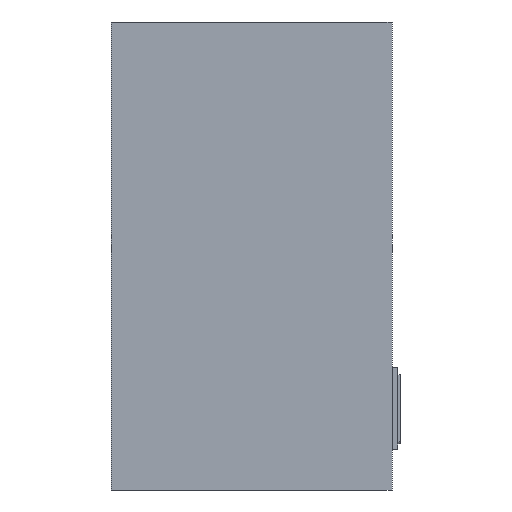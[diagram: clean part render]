
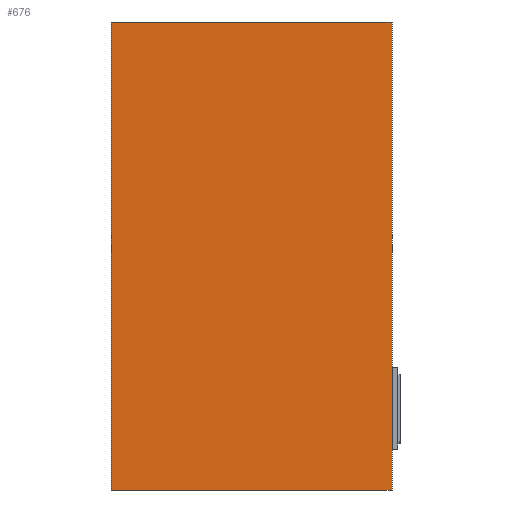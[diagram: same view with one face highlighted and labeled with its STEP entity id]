
A CAD part, left-side view. The second image highlights one B-rep face of the part: STEP entity #676.
In plain terms, the highlighted planar face has unit normal (-1, 0, 0).
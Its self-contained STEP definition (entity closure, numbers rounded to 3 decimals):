
#79=FACE_OUTER_BOUND('',#119,.T.);
#119=EDGE_LOOP('',(#542,#543,#544,#545));
#189=LINE('',#1097,#257);
#190=LINE('',#1100,#258);
#191=LINE('',#1102,#259);
#192=LINE('',#1103,#260);
#257=VECTOR('',#917,10.);
#258=VECTOR('',#920,10.);
#259=VECTOR('',#921,10.);
#260=VECTOR('',#922,10.);
#314=VERTEX_POINT('',#1090);
#317=VERTEX_POINT('',#1095);
#318=VERTEX_POINT('',#1099);
#319=VERTEX_POINT('',#1101);
#397=EDGE_CURVE('',#314,#317,#189,.T.);
#398=EDGE_CURVE('',#318,#314,#190,.T.);
#399=EDGE_CURVE('',#319,#317,#191,.T.);
#400=EDGE_CURVE('',#318,#319,#192,.T.);
#542=ORIENTED_EDGE('',*,*,#398,.T.);
#543=ORIENTED_EDGE('',*,*,#397,.T.);
#544=ORIENTED_EDGE('',*,*,#399,.F.);
#545=ORIENTED_EDGE('',*,*,#400,.F.);
#599=PLANE('',#753);
#676=ADVANCED_FACE('',(#79),#599,.T.);
#753=AXIS2_PLACEMENT_3D('',#1098,#918,#919);
#917=DIRECTION('',(0.,1.,0.));
#918=DIRECTION('center_axis',(-1.,0.,0.));
#919=DIRECTION('ref_axis',(0.,0.,1.));
#920=DIRECTION('',(0.,0.,1.));
#921=DIRECTION('',(0.,0.,1.));
#922=DIRECTION('',(0.,1.,0.));
#1090=CARTESIAN_POINT('',(-480.,0.,40.));
#1095=CARTESIAN_POINT('',(-480.,48.,40.));
#1097=CARTESIAN_POINT('',(-480.,0.,40.));
#1098=CARTESIAN_POINT('Origin',(-480.,0.,-40.));
#1099=CARTESIAN_POINT('',(-480.,0.,-40.));
#1100=CARTESIAN_POINT('',(-480.,0.,-40.));
#1101=CARTESIAN_POINT('',(-480.,48.,-40.));
#1102=CARTESIAN_POINT('',(-480.,48.,-40.));
#1103=CARTESIAN_POINT('',(-480.,0.,-40.));
